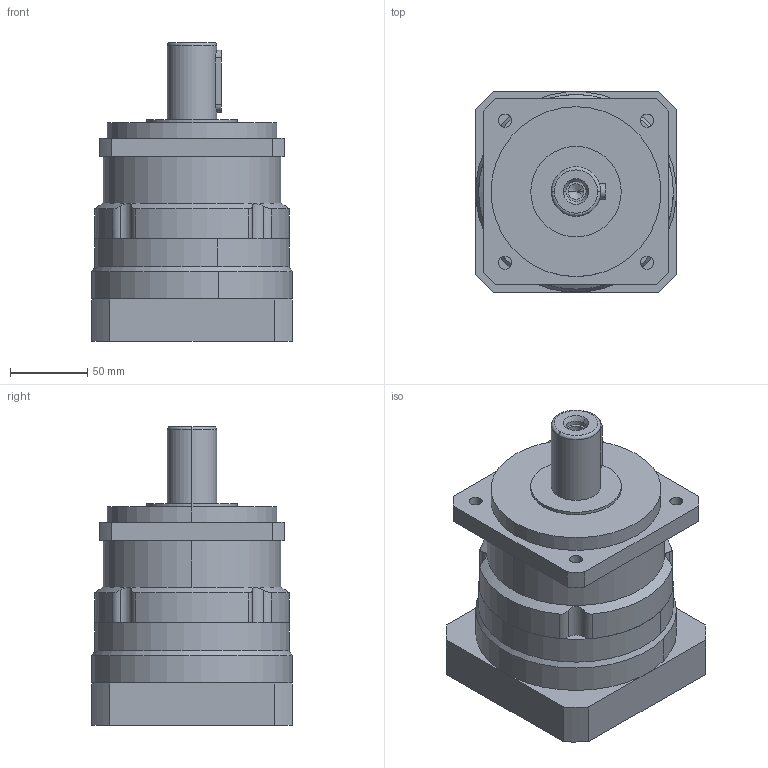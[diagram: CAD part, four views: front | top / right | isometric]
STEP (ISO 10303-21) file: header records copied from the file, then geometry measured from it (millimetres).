
FILE_DESCRIPTION (( 'STEP AP203' ), '1' );
FILE_NAME ('PLM120-L1-22-95-115.STEP', '2024-11-04T06:03:30', ( 'Windows User' ), ( 'P R C' ), 'SwSTEP 2.0', 'SolidWorks 2016', '' );
FILE_SCHEMA (( 'CONFIG_CONTROL_DESIGN' ));
Length unit declared in the file: millimetre
Products named in the file (8): 粣創-6009 45x75x16; 邧埴瑩 10x8x40; PLM120 珨撰蟀諉啣 130選 095x7 115xM8 27.5L; PLM120-L1-22-95-115; PLM120-本体齿圈; PLM120-薊粣ん_LZ03; PLM120-狟裔; 囀鞠褒蹟佪-M8℅25
Assembly tree (7 placements, depth 2):
  PLM120-L1-22-95-115
    PLM120-本体齿圈
    PLM120-薊粣ん_LZ03
    PLM120-狟裔
    囀鞠褒蹟佪-M8℅25
    粣創-6009 45x75x16
    邧埴瑩 10x8x40
    PLM120 珨撰蟀諉啣 130選 095x7 115xM8 27.5L
Bounding box: 130 x 130 x 193.5 mm (x, y, z)
Volume: 1654143.2 mm3; surface area: 211743.5 mm2
Topology: 7 solids, 7 shells, 971 faces, 2644 edges, 1743 vertices
Faces by surface type: plane 526, bspline 273, cylinder 154, cone 18
Entity records: 42092 total; most frequent: CARTESIAN_POINT 18383, ORIENTED_EDGE 5268, DIRECTION 3873, EDGE_CURVE 2634, VERTEX_POINT 1743, VECTOR 1501, LINE 1501, AXIS2_PLACEMENT_3D 1186
